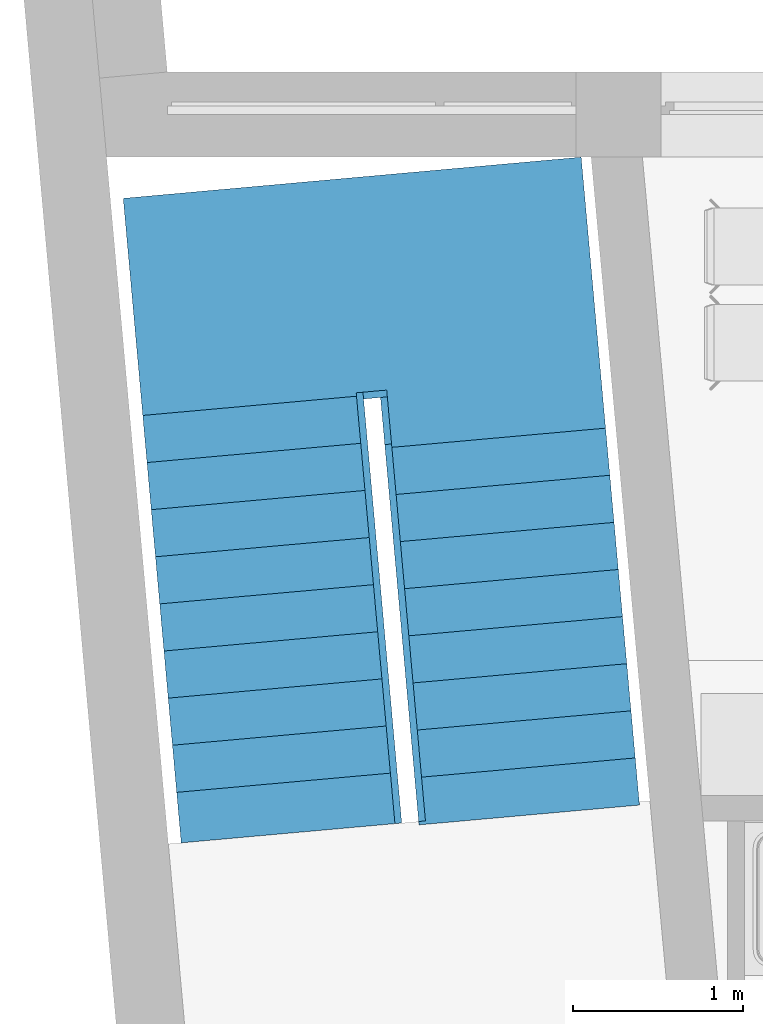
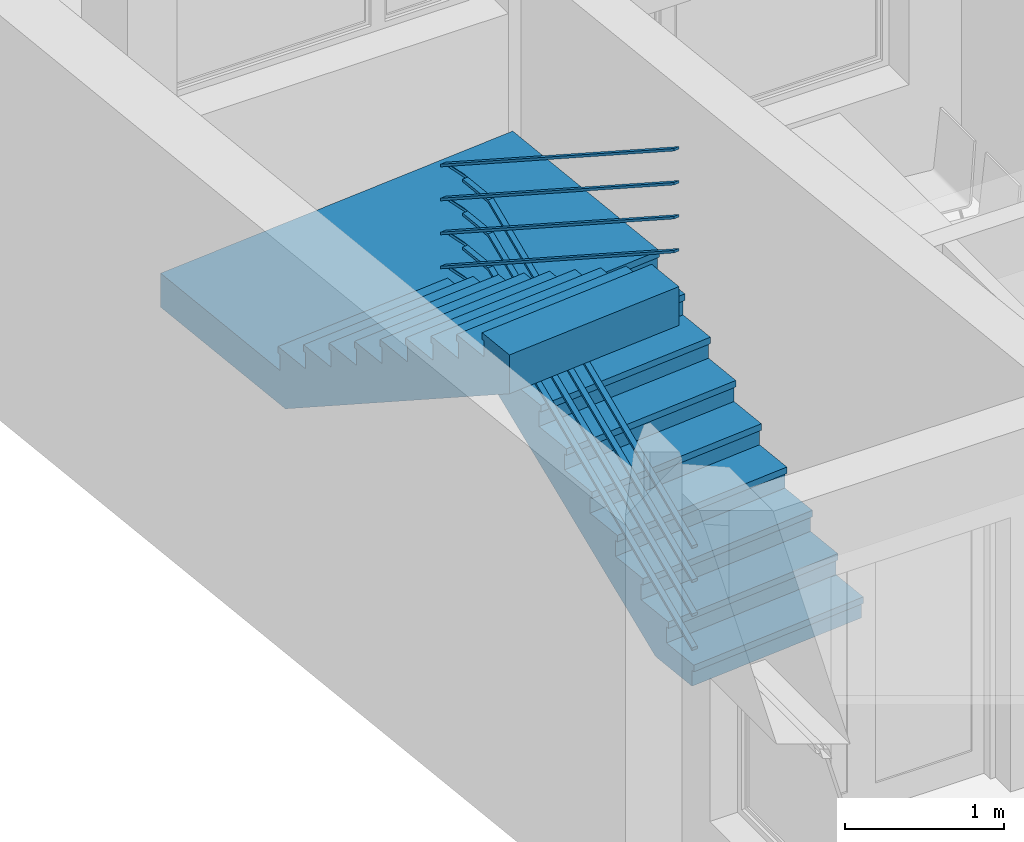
# One storey, part 40 of 172: 1 stair.
"""IFC2X3 building model written with IfcOpenShell, lengths in millimetres."""

from ifc_helpers import new_model, entity, si_unit, converted_unit, money_unit, direction, frame, origin_with_axes, place, context, subcontext, project, spatial, faceted_brep, material, element, save


model = new_model("IFC2X3")

# Units and contexts
model_context = context("Model", 3, precision=1e-05, world=origin_with_axes(), true_north=direction((0.0, 1.0)))
body_context = subcontext(model_context, "Body", "Model", "MODEL_VIEW")
ifc_project = project(units=[si_unit("LENGTHUNIT", "METRE", prefix="MILLI"), si_unit("AREAUNIT", "SQUARE_METRE"), si_unit("VOLUMEUNIT", "CUBIC_METRE"), converted_unit("PLANEANGLEUNIT", "DEGREE", entity("IfcPlaneAngleMeasure", 0.0174532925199), si_unit("PLANEANGLEUNIT", "RADIAN"), dimensions=[0, 0, 0, 0, 0, 0, 0]), si_unit("SOLIDANGLEUNIT", "STERADIAN"), money_unit("USD"), converted_unit("TIMEUNIT", "Year", entity("IfcTimeMeasure", 31556926.0), si_unit("TIMEUNIT", "SECOND"), dimensions=[0, 0, 0, 0, 0, 0, 0]), si_unit("MASSUNIT", "GRAM"), si_unit("THERMODYNAMICTEMPERATUREUNIT", "DEGREE_CELSIUS"), si_unit("LUMINOUSINTENSITYUNIT", "LUMEN")], contexts=[model_context])

# Site, building, storey
site_placement = place(None, origin_with_axes())
site = spatial("IfcSite", under=ifc_project, at=site_placement, Name="Site", CompositionType="ELEMENT")
building_placement = place(site_placement, origin_with_axes())
building = spatial("IfcBuilding", under=site, at=building_placement, Name="Building", CompositionType="ELEMENT")
storey_placement = place(building_placement, frame((0.0, 0.0, 3200.0), z_axis=(0.0, 0.0, 1.0), x_axis=(1.0, 0.0, 0.0)))
storey = spatial("IfcBuildingStorey", under=building, at=storey_placement, Name="3KORRUS", CompositionType="ELEMENT", Elevation=3200.0)

# Stair
ifc_material = material(Name="50 %")
stair_placement = place(storey_placement, frame((-51198.3443132, -8924.32051157, 0.0), z_axis=(0.0, 0.0, 1.0), x_axis=(-0.0895981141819, 0.995978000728, 0.0)))
element("IfcStair", 1, at=stair_placement, inside=storey, material=ifc_material, Name="TR1", ObjectType="TR1", ShapeType="TWO_STRAIGHT_RUN_STAIR", context=body_context, shape_type="Brep", body=[
    faceted_brep([(398.528, 0.0, 0.0), (398.528, 1300.0, 0.0), (2559.818, 1300.0, 1290.0), (2559.818, 0.0, 1290.0), (30.0, 0.0, 0.0), (30.0, 1300.0, 0.0), (30.0, 1300.0, 122.222), (307.778, 1300.0, 122.222), (307.778, 1300.0, 294.444), (585.556, 1300.0, 294.444), (585.556, 1300.0, 466.667), (863.333, 1300.0, 466.667), (863.333, 1300.0, 638.889), (1141.111, 1300.0, 638.889), (1141.111, 1300.0, 811.111), (1418.889, 1300.0, 811.111), (1418.889, 1300.0, 983.333), (1696.667, 1300.0, 983.333), (1696.667, 1300.0, 1155.556), (1974.444, 1300.0, 1155.556), (1974.444, 1300.0, 1327.778), (2252.222, 1300.0, 1327.778), (2252.222, 1300.0, 1500.0), (2530.0, 1300.0, 1500.0), (3800.0, 1300.0, 1500.0), (3800.0, 1300.0, 1290.0), (3800.0, 0.0, 1290.0), (3800.0, 0.0, 1500.0), (2530.0, 0.0, 1500.0), (2252.222, 0.0, 1500.0), (2252.222, 0.0, 1327.778), (1974.444, 0.0, 1327.778), (1974.444, 0.0, 1155.556), (1696.667, 0.0, 1155.556), (1696.667, 0.0, 983.333), (1418.889, 0.0, 983.333), (1418.889, 0.0, 811.111), (1141.111, 0.0, 811.111), (1141.111, 0.0, 638.889), (863.333, 0.0, 638.889), (863.333, 0.0, 466.667), (585.556, 0.0, 466.667), (585.556, 0.0, 294.444), (307.778, 0.0, 294.444), (307.778, 0.0, 122.222), (30.0, 0.0, 122.222)], [[[0, 1, 2, 3]], [[4, 5, 1, 0]], [[1, 5, 6, 7, 8, 9, 10, 11, 12, 13, 14, 15, 16, 17, 18, 19, 20, 21, 22, 23, 24, 25, 2]], [[3, 2, 25, 26]], [[0, 3, 26, 27, 28, 29, 30, 31, 32, 33, 34, 35, 36, 37, 38, 39, 40, 41, 42, 43, 44, 45, 4]], [[45, 6, 5, 4]], [[44, 7, 6, 45]], [[43, 8, 7, 44]], [[42, 9, 8, 43]], [[41, 10, 9, 42]], [[40, 11, 10, 41]], [[39, 12, 11, 40]], [[38, 13, 12, 39]], [[37, 14, 13, 38]], [[36, 15, 14, 37]], [[35, 16, 15, 36]], [[34, 17, 16, 35]], [[33, 18, 17, 34]], [[32, 19, 18, 33]], [[31, 20, 19, 32]], [[30, 21, 20, 31]], [[29, 22, 21, 30]], [[28, 23, 22, 29]], [[27, 24, 23, 28]], [[26, 25, 24, 27]]]),
    faceted_brep([(2500.0, 1300.0, 1500.0), (2500.0, 1400.0, 1500.0), (2500.0, 1400.0, 1290.0), (2500.0, 1300.0, 1290.0), (3800.0, 1300.0, 1500.0), (3800.0, 1400.0, 1500.0), (3800.0, 1400.0, 1290.0), (2559.818, 1400.0, 1290.0), (2559.818, 1300.0, 1290.0), (3800.0, 1300.0, 1290.0)], [[[0, 1, 2, 3]], [[4, 5, 1, 0]], [[1, 5, 6, 7, 2]], [[3, 2, 7, 8]], [[0, 3, 8, 9, 4]], [[9, 6, 5, 4]], [[8, 7, 6, 9]]]),
    faceted_brep([(2500.0, 1400.0, 1500.0), (2500.0, 2700.0, 1500.0), (2500.0, 2700.0, 1290.0), (2500.0, 1400.0, 1290.0), (3800.0, 1400.0, 1500.0), (3800.0, 2700.0, 1500.0), (3800.0, 2700.0, 1290.0), (3800.0, 1400.0, 1290.0)], [[[0, 1, 2, 3]], [[4, 5, 1, 0]], [[1, 5, 6, 2]], [[3, 2, 6, 7]], [[0, 3, 7, 4]], [[7, 6, 5, 4]]]),
    faceted_brep([(2500.0, 1400.0, 1290.0), (2440.182, 1400.0, 1290.0), (2440.182, 2700.0, 1290.0), (2500.0, 2700.0, 1290.0), (2500.0, 1400.0, 1500.0), (2470.0, 1400.0, 1500.0), (2470.0, 1400.0, 1672.222), (2192.222, 1400.0, 1672.222), (2192.222, 1400.0, 1844.444), (1914.444, 1400.0, 1844.444), (1914.444, 1400.0, 2016.667), (1636.667, 1400.0, 2016.667), (1636.667, 1400.0, 2188.889), (1358.889, 1400.0, 2188.889), (1358.889, 1400.0, 2361.111), (1081.111, 1400.0, 2361.111), (1081.111, 1400.0, 2533.333), (803.333, 1400.0, 2533.333), (803.333, 1400.0, 2705.556), (525.556, 1400.0, 2705.556), (525.556, 1400.0, 2877.778), (247.778, 1400.0, 2877.778), (247.778, 1400.0, 3050.0), (0.0, 1400.0, 3050.0), (0.0, 1400.0, 2802.913), (0.0, 2700.0, 2802.913), (0.0, 2700.0, 3050.0), (247.778, 2700.0, 3050.0), (247.778, 2700.0, 2877.778), (525.556, 2700.0, 2877.778), (525.556, 2700.0, 2705.556), (803.333, 2700.0, 2705.556), (803.333, 2700.0, 2533.333), (1081.111, 2700.0, 2533.333), (1081.111, 2700.0, 2361.111), (1358.889, 2700.0, 2361.111), (1358.889, 2700.0, 2188.889), (1636.667, 2700.0, 2188.889), (1636.667, 2700.0, 2016.667), (1914.444, 2700.0, 2016.667), (1914.444, 2700.0, 1844.444), (2192.222, 2700.0, 1844.444), (2192.222, 2700.0, 1672.222), (2470.0, 2700.0, 1672.222), (2470.0, 2700.0, 1500.0), (2500.0, 2700.0, 1500.0)], [[[0, 1, 2, 3]], [[0, 4, 5, 6, 7, 8, 9, 10, 11, 12, 13, 14, 15, 16, 17, 18, 19, 20, 21, 22, 23, 24, 1]], [[1, 24, 25, 2]], [[3, 2, 25, 26, 27, 28, 29, 30, 31, 32, 33, 34, 35, 36, 37, 38, 39, 40, 41, 42, 43, 44, 45]], [[4, 0, 3, 45]], [[5, 4, 45, 44]], [[6, 5, 44, 43]], [[7, 6, 43, 42]], [[8, 7, 42, 41]], [[9, 8, 41, 40]], [[10, 9, 40, 39]], [[11, 10, 39, 38]], [[12, 11, 38, 37]], [[13, 12, 37, 36]], [[14, 13, 36, 35]], [[15, 14, 35, 34]], [[16, 15, 34, 33]], [[17, 16, 33, 32]], [[18, 17, 32, 31]], [[19, 18, 31, 30]], [[20, 19, 30, 29]], [[21, 20, 29, 28]], [[22, 21, 28, 27]], [[23, 22, 27, 26]], [[24, 23, 26, 25]]]),
    faceted_brep([(0.0, 0.0, 0.0), (0.0, 1300.0, 0.0), (30.0, 1300.0, 0.0), (30.0, 0.0, 0.0), (0.0, 0.0, 122.222), (0.0, 1300.0, 122.222), (30.0, 1300.0, 122.222), (30.0, 0.0, 122.222)], [[[0, 1, 2, 3]], [[4, 5, 1, 0]], [[1, 5, 6, 2]], [[3, 2, 6, 7]], [[0, 3, 7, 4]], [[7, 6, 5, 4]]]),
    faceted_brep([(277.778, 0.0, 172.222), (277.778, 1300.0, 172.222), (307.778, 1300.0, 172.222), (307.778, 0.0, 172.222), (277.778, 0.0, 294.444), (277.778, 1300.0, 294.444), (307.778, 1300.0, 294.444), (307.778, 0.0, 294.444)], [[[0, 1, 2, 3]], [[4, 5, 1, 0]], [[1, 5, 6, 2]], [[3, 2, 6, 7]], [[0, 3, 7, 4]], [[7, 6, 5, 4]]]),
    faceted_brep([(555.556, 0.0, 344.444), (555.556, 1300.0, 344.444), (585.556, 1300.0, 344.444), (585.556, 0.0, 344.444), (555.556, 0.0, 466.667), (555.556, 1300.0, 466.667), (585.556, 1300.0, 466.667), (585.556, 0.0, 466.667)], [[[0, 1, 2, 3]], [[4, 5, 1, 0]], [[1, 5, 6, 2]], [[3, 2, 6, 7]], [[0, 3, 7, 4]], [[7, 6, 5, 4]]]),
    faceted_brep([(833.333, 0.0, 516.667), (833.333, 1300.0, 516.667), (863.333, 1300.0, 516.667), (863.333, 0.0, 516.667), (833.333, 0.0, 638.889), (833.333, 1300.0, 638.889), (863.333, 1300.0, 638.889), (863.333, 0.0, 638.889)], [[[0, 1, 2, 3]], [[4, 5, 1, 0]], [[1, 5, 6, 2]], [[3, 2, 6, 7]], [[0, 3, 7, 4]], [[7, 6, 5, 4]]]),
    faceted_brep([(1111.111, 0.0, 688.889), (1111.111, 1300.0, 688.889), (1141.111, 1300.0, 688.889), (1141.111, 0.0, 688.889), (1111.111, 0.0, 811.111), (1111.111, 1300.0, 811.111), (1141.111, 1300.0, 811.111), (1141.111, 0.0, 811.111)], [[[0, 1, 2, 3]], [[4, 5, 1, 0]], [[1, 5, 6, 2]], [[3, 2, 6, 7]], [[0, 3, 7, 4]], [[7, 6, 5, 4]]]),
    faceted_brep([(1388.889, 0.0, 861.111), (1388.889, 1300.0, 861.111), (1418.889, 1300.0, 861.111), (1418.889, 0.0, 861.111), (1388.889, 0.0, 983.333), (1388.889, 1300.0, 983.333), (1418.889, 1300.0, 983.333), (1418.889, 0.0, 983.333)], [[[0, 1, 2, 3]], [[4, 5, 1, 0]], [[1, 5, 6, 2]], [[3, 2, 6, 7]], [[0, 3, 7, 4]], [[7, 6, 5, 4]]]),
    faceted_brep([(1666.667, 0.0, 1033.333), (1666.667, 1300.0, 1033.333), (1696.667, 1300.0, 1033.333), (1696.667, 0.0, 1033.333), (1666.667, 0.0, 1155.556), (1666.667, 1300.0, 1155.556), (1696.667, 1300.0, 1155.556), (1696.667, 0.0, 1155.556)], [[[0, 1, 2, 3]], [[4, 5, 1, 0]], [[1, 5, 6, 2]], [[3, 2, 6, 7]], [[0, 3, 7, 4]], [[7, 6, 5, 4]]]),
    faceted_brep([(1944.444, 0.0, 1205.556), (1944.444, 1300.0, 1205.556), (1974.444, 1300.0, 1205.556), (1974.444, 0.0, 1205.556), (1944.444, 0.0, 1327.778), (1944.444, 1300.0, 1327.778), (1974.444, 1300.0, 1327.778), (1974.444, 0.0, 1327.778)], [[[0, 1, 2, 3]], [[4, 5, 1, 0]], [[1, 5, 6, 2]], [[3, 2, 6, 7]], [[0, 3, 7, 4]], [[7, 6, 5, 4]]]),
    faceted_brep([(2222.222, 0.0, 1377.778), (2222.222, 1300.0, 1377.778), (2252.222, 1300.0, 1377.778), (2252.222, 0.0, 1377.778), (2222.222, 0.0, 1500.0), (2222.222, 1300.0, 1500.0), (2252.222, 1300.0, 1500.0), (2252.222, 0.0, 1500.0)], [[[0, 1, 2, 3]], [[4, 5, 1, 0]], [[1, 5, 6, 2]], [[3, 2, 6, 7]], [[0, 3, 7, 4]], [[7, 6, 5, 4]]]),
    faceted_brep([(2500.0, 1400.0, 1550.0), (2470.0, 1400.0, 1550.0), (2470.0, 2700.0, 1550.0), (2500.0, 2700.0, 1550.0), (2500.0, 1400.0, 1672.222), (2470.0, 1400.0, 1672.222), (2470.0, 2700.0, 1672.222), (2500.0, 2700.0, 1672.222)], [[[0, 1, 2, 3]], [[0, 4, 5, 1]], [[1, 5, 6, 2]], [[3, 2, 6, 7]], [[4, 0, 3, 7]], [[5, 4, 7, 6]]]),
    faceted_brep([(2222.222, 1400.0, 1722.222), (2192.222, 1400.0, 1722.222), (2192.222, 2700.0, 1722.222), (2222.222, 2700.0, 1722.222), (2222.222, 1400.0, 1844.444), (2192.222, 1400.0, 1844.444), (2192.222, 2700.0, 1844.444), (2222.222, 2700.0, 1844.444)], [[[0, 1, 2, 3]], [[0, 4, 5, 1]], [[1, 5, 6, 2]], [[3, 2, 6, 7]], [[4, 0, 3, 7]], [[5, 4, 7, 6]]]),
    faceted_brep([(1944.444, 1400.0, 1894.444), (1914.444, 1400.0, 1894.444), (1914.444, 2700.0, 1894.444), (1944.444, 2700.0, 1894.444), (1944.444, 1400.0, 2016.667), (1914.444, 1400.0, 2016.667), (1914.444, 2700.0, 2016.667), (1944.444, 2700.0, 2016.667)], [[[0, 1, 2, 3]], [[0, 4, 5, 1]], [[1, 5, 6, 2]], [[3, 2, 6, 7]], [[4, 0, 3, 7]], [[5, 4, 7, 6]]]),
    faceted_brep([(1666.667, 1400.0, 2066.667), (1636.667, 1400.0, 2066.667), (1636.667, 2700.0, 2066.667), (1666.667, 2700.0, 2066.667), (1666.667, 1400.0, 2188.889), (1636.667, 1400.0, 2188.889), (1636.667, 2700.0, 2188.889), (1666.667, 2700.0, 2188.889)], [[[0, 1, 2, 3]], [[0, 4, 5, 1]], [[1, 5, 6, 2]], [[3, 2, 6, 7]], [[4, 0, 3, 7]], [[5, 4, 7, 6]]]),
    faceted_brep([(1388.889, 1400.0, 2238.889), (1358.889, 1400.0, 2238.889), (1358.889, 2700.0, 2238.889), (1388.889, 2700.0, 2238.889), (1388.889, 1400.0, 2361.111), (1358.889, 1400.0, 2361.111), (1358.889, 2700.0, 2361.111), (1388.889, 2700.0, 2361.111)], [[[0, 1, 2, 3]], [[0, 4, 5, 1]], [[1, 5, 6, 2]], [[3, 2, 6, 7]], [[4, 0, 3, 7]], [[5, 4, 7, 6]]]),
    faceted_brep([(1111.111, 1400.0, 2411.111), (1081.111, 1400.0, 2411.111), (1081.111, 2700.0, 2411.111), (1111.111, 2700.0, 2411.111), (1111.111, 1400.0, 2533.333), (1081.111, 1400.0, 2533.333), (1081.111, 2700.0, 2533.333), (1111.111, 2700.0, 2533.333)], [[[0, 1, 2, 3]], [[0, 4, 5, 1]], [[1, 5, 6, 2]], [[3, 2, 6, 7]], [[4, 0, 3, 7]], [[5, 4, 7, 6]]]),
    faceted_brep([(833.333, 1400.0, 2583.333), (803.333, 1400.0, 2583.333), (803.333, 2700.0, 2583.333), (833.333, 2700.0, 2583.333), (833.333, 1400.0, 2705.556), (803.333, 1400.0, 2705.556), (803.333, 2700.0, 2705.556), (833.333, 2700.0, 2705.556)], [[[0, 1, 2, 3]], [[0, 4, 5, 1]], [[1, 5, 6, 2]], [[3, 2, 6, 7]], [[4, 0, 3, 7]], [[5, 4, 7, 6]]]),
    faceted_brep([(555.556, 1400.0, 2755.556), (525.556, 1400.0, 2755.556), (525.556, 2700.0, 2755.556), (555.556, 2700.0, 2755.556), (555.556, 1400.0, 2877.778), (525.556, 1400.0, 2877.778), (525.556, 2700.0, 2877.778), (555.556, 2700.0, 2877.778)], [[[0, 1, 2, 3]], [[0, 4, 5, 1]], [[1, 5, 6, 2]], [[3, 2, 6, 7]], [[4, 0, 3, 7]], [[5, 4, 7, 6]]]),
    faceted_brep([(277.778, 1400.0, 2927.778), (247.778, 1400.0, 2927.778), (247.778, 2700.0, 2927.778), (277.778, 2700.0, 2927.778), (277.778, 1400.0, 3050.0), (247.778, 1400.0, 3050.0), (247.778, 2700.0, 3050.0), (277.778, 2700.0, 3050.0)], [[[0, 1, 2, 3]], [[0, 4, 5, 1]], [[1, 5, 6, 2]], [[3, 2, 6, 7]], [[4, 0, 3, 7]], [[5, 4, 7, 6]]]),
    faceted_brep([(-20.0, 0.0, 122.222), (-20.0, 1300.0, 122.222), (307.778, 1300.0, 122.222), (307.778, 0.0, 122.222), (-20.0, 0.0, 172.222), (-20.0, 1300.0, 172.222), (307.778, 1300.0, 172.222), (307.778, 0.0, 172.222)], [[[0, 1, 2, 3]], [[4, 5, 1, 0]], [[1, 5, 6, 2]], [[3, 2, 6, 7]], [[0, 3, 7, 4]], [[7, 6, 5, 4]]]),
    faceted_brep([(257.778, 0.0, 294.444), (257.778, 1300.0, 294.444), (585.556, 1300.0, 294.444), (585.556, 0.0, 294.444), (257.778, 0.0, 344.444), (257.778, 1300.0, 344.444), (585.556, 1300.0, 344.444), (585.556, 0.0, 344.444)], [[[0, 1, 2, 3]], [[4, 5, 1, 0]], [[1, 5, 6, 2]], [[3, 2, 6, 7]], [[0, 3, 7, 4]], [[7, 6, 5, 4]]]),
    faceted_brep([(535.556, 0.0, 466.667), (535.556, 1300.0, 466.667), (863.333, 1300.0, 466.667), (863.333, 0.0, 466.667), (535.556, 0.0, 516.667), (535.556, 1300.0, 516.667), (863.333, 1300.0, 516.667), (863.333, 0.0, 516.667)], [[[0, 1, 2, 3]], [[4, 5, 1, 0]], [[1, 5, 6, 2]], [[3, 2, 6, 7]], [[0, 3, 7, 4]], [[7, 6, 5, 4]]]),
    faceted_brep([(813.333, 0.0, 638.889), (813.333, 1300.0, 638.889), (1141.111, 1300.0, 638.889), (1141.111, 0.0, 638.889), (813.333, 0.0, 688.889), (813.333, 1300.0, 688.889), (1141.111, 1300.0, 688.889), (1141.111, 0.0, 688.889)], [[[0, 1, 2, 3]], [[4, 5, 1, 0]], [[1, 5, 6, 2]], [[3, 2, 6, 7]], [[0, 3, 7, 4]], [[7, 6, 5, 4]]]),
    faceted_brep([(1091.111, 0.0, 811.111), (1091.111, 1300.0, 811.111), (1418.889, 1300.0, 811.111), (1418.889, 0.0, 811.111), (1091.111, 0.0, 861.111), (1091.111, 1300.0, 861.111), (1418.889, 1300.0, 861.111), (1418.889, 0.0, 861.111)], [[[0, 1, 2, 3]], [[4, 5, 1, 0]], [[1, 5, 6, 2]], [[3, 2, 6, 7]], [[0, 3, 7, 4]], [[7, 6, 5, 4]]]),
    faceted_brep([(1368.889, 0.0, 983.333), (1368.889, 1300.0, 983.333), (1696.667, 1300.0, 983.333), (1696.667, 0.0, 983.333), (1368.889, 0.0, 1033.333), (1368.889, 1300.0, 1033.333), (1696.667, 1300.0, 1033.333), (1696.667, 0.0, 1033.333)], [[[0, 1, 2, 3]], [[4, 5, 1, 0]], [[1, 5, 6, 2]], [[3, 2, 6, 7]], [[0, 3, 7, 4]], [[7, 6, 5, 4]]]),
    faceted_brep([(1646.667, 0.0, 1155.556), (1646.667, 1300.0, 1155.556), (1974.444, 1300.0, 1155.556), (1974.444, 0.0, 1155.556), (1646.667, 0.0, 1205.556), (1646.667, 1300.0, 1205.556), (1974.444, 1300.0, 1205.556), (1974.444, 0.0, 1205.556)], [[[0, 1, 2, 3]], [[4, 5, 1, 0]], [[1, 5, 6, 2]], [[3, 2, 6, 7]], [[0, 3, 7, 4]], [[7, 6, 5, 4]]]),
    faceted_brep([(1924.444, 0.0, 1327.778), (1924.444, 1300.0, 1327.778), (2252.222, 1300.0, 1327.778), (2252.222, 0.0, 1327.778), (1924.444, 0.0, 1377.778), (1924.444, 1300.0, 1377.778), (2252.222, 1300.0, 1377.778), (2252.222, 0.0, 1377.778)], [[[0, 1, 2, 3]], [[4, 5, 1, 0]], [[1, 5, 6, 2]], [[3, 2, 6, 7]], [[0, 3, 7, 4]], [[7, 6, 5, 4]]]),
    faceted_brep([(2202.222, 0.0, 1500.0), (2202.222, 1300.0, 1500.0), (2500.0, 1300.0, 1500.0), (2500.0, 0.0, 1500.0), (2202.222, 0.0, 1550.0), (2202.222, 1300.0, 1550.0), (2500.0, 1300.0, 1550.0), (2500.0, 0.0, 1550.0)], [[[0, 1, 2, 3]], [[4, 5, 1, 0]], [[1, 5, 6, 2]], [[3, 2, 6, 7]], [[0, 3, 7, 4]], [[7, 6, 5, 4]]]),
    faceted_brep([(3800.0, 0.0, 1500.0), (3800.0, 1400.0, 1500.0), (3800.0, 1400.0, 1550.0), (3800.0, 0.0, 1550.0), (2500.0, 0.0, 1500.0), (2500.0, 1400.0, 1500.0), (2500.0, 1400.0, 1550.0), (2500.0, 0.0, 1550.0)], [[[0, 1, 2, 3]], [[4, 5, 1, 0]], [[1, 5, 6, 2]], [[3, 2, 6, 7]], [[0, 3, 7, 4]], [[7, 6, 5, 4]]]),
    faceted_brep([(3800.0, 1400.0, 1500.0), (3800.0, 2700.0, 1500.0), (3800.0, 2700.0, 1550.0), (3800.0, 1400.0, 1550.0), (2470.0, 1400.0, 1500.0), (2470.0, 2700.0, 1500.0), (2470.0, 2700.0, 1550.0), (2470.0, 1400.0, 1550.0)], [[[0, 1, 2, 3]], [[4, 5, 1, 0]], [[1, 5, 6, 2]], [[3, 2, 6, 7]], [[0, 3, 7, 4]], [[7, 6, 5, 4]]]),
    faceted_brep([(2520.0, 1400.0, 1672.222), (2192.222, 1400.0, 1672.222), (2192.222, 2700.0, 1672.222), (2520.0, 2700.0, 1672.222), (2520.0, 1400.0, 1722.222), (2192.222, 1400.0, 1722.222), (2192.222, 2700.0, 1722.222), (2520.0, 2700.0, 1722.222)], [[[0, 1, 2, 3]], [[0, 4, 5, 1]], [[1, 5, 6, 2]], [[3, 2, 6, 7]], [[4, 0, 3, 7]], [[5, 4, 7, 6]]]),
    faceted_brep([(2242.222, 1400.0, 1844.444), (1914.444, 1400.0, 1844.444), (1914.444, 2700.0, 1844.444), (2242.222, 2700.0, 1844.444), (2242.222, 1400.0, 1894.444), (1914.444, 1400.0, 1894.444), (1914.444, 2700.0, 1894.444), (2242.222, 2700.0, 1894.444)], [[[0, 1, 2, 3]], [[0, 4, 5, 1]], [[1, 5, 6, 2]], [[3, 2, 6, 7]], [[4, 0, 3, 7]], [[5, 4, 7, 6]]]),
    faceted_brep([(1964.444, 1400.0, 2016.667), (1636.667, 1400.0, 2016.667), (1636.667, 2700.0, 2016.667), (1964.444, 2700.0, 2016.667), (1964.444, 1400.0, 2066.667), (1636.667, 1400.0, 2066.667), (1636.667, 2700.0, 2066.667), (1964.444, 2700.0, 2066.667)], [[[0, 1, 2, 3]], [[0, 4, 5, 1]], [[1, 5, 6, 2]], [[3, 2, 6, 7]], [[4, 0, 3, 7]], [[5, 4, 7, 6]]]),
    faceted_brep([(1686.667, 1400.0, 2188.889), (1358.889, 1400.0, 2188.889), (1358.889, 2700.0, 2188.889), (1686.667, 2700.0, 2188.889), (1686.667, 1400.0, 2238.889), (1358.889, 1400.0, 2238.889), (1358.889, 2700.0, 2238.889), (1686.667, 2700.0, 2238.889)], [[[0, 1, 2, 3]], [[0, 4, 5, 1]], [[1, 5, 6, 2]], [[3, 2, 6, 7]], [[4, 0, 3, 7]], [[5, 4, 7, 6]]]),
    faceted_brep([(1408.889, 1400.0, 2361.111), (1081.111, 1400.0, 2361.111), (1081.111, 2700.0, 2361.111), (1408.889, 2700.0, 2361.111), (1408.889, 1400.0, 2411.111), (1081.111, 1400.0, 2411.111), (1081.111, 2700.0, 2411.111), (1408.889, 2700.0, 2411.111)], [[[0, 1, 2, 3]], [[0, 4, 5, 1]], [[1, 5, 6, 2]], [[3, 2, 6, 7]], [[4, 0, 3, 7]], [[5, 4, 7, 6]]]),
    faceted_brep([(1131.111, 1400.0, 2533.333), (803.333, 1400.0, 2533.333), (803.333, 2700.0, 2533.333), (1131.111, 2700.0, 2533.333), (1131.111, 1400.0, 2583.333), (803.333, 1400.0, 2583.333), (803.333, 2700.0, 2583.333), (1131.111, 2700.0, 2583.333)], [[[0, 1, 2, 3]], [[0, 4, 5, 1]], [[1, 5, 6, 2]], [[3, 2, 6, 7]], [[4, 0, 3, 7]], [[5, 4, 7, 6]]]),
    faceted_brep([(853.333, 1400.0, 2705.556), (525.556, 1400.0, 2705.556), (525.556, 2700.0, 2705.556), (853.333, 2700.0, 2705.556), (853.333, 1400.0, 2755.556), (525.556, 1400.0, 2755.556), (525.556, 2700.0, 2755.556), (853.333, 2700.0, 2755.556)], [[[0, 1, 2, 3]], [[0, 4, 5, 1]], [[1, 5, 6, 2]], [[3, 2, 6, 7]], [[4, 0, 3, 7]], [[5, 4, 7, 6]]]),
    faceted_brep([(575.556, 1400.0, 2877.778), (247.778, 1400.0, 2877.778), (247.778, 2700.0, 2877.778), (575.556, 2700.0, 2877.778), (575.556, 1400.0, 2927.778), (247.778, 1400.0, 2927.778), (247.778, 2700.0, 2927.778), (575.556, 2700.0, 2927.778)], [[[0, 1, 2, 3]], [[0, 4, 5, 1]], [[1, 5, 6, 2]], [[3, 2, 6, 7]], [[4, 0, 3, 7]], [[5, 4, 7, 6]]]),
    faceted_brep([(297.778, 1400.0, 3050.0), (0.0, 1400.0, 3050.0), (0.0, 2700.0, 3050.0), (297.778, 2700.0, 3050.0), (297.778, 1400.0, 3100.0), (0.0, 1400.0, 3100.0), (0.0, 2700.0, 3100.0), (297.778, 2700.0, 3100.0)], [[[0, 1, 2, 3]], [[0, 4, 5, 1]], [[1, 5, 6, 2]], [[3, 2, 6, 7]], [[4, 0, 3, 7]], [[5, 4, 7, 6]]]),
    faceted_brep([(0.0, 1260.0, 272.222), (0.0, 1300.0, 272.222), (2222.222, 1300.0, 1650.0), (2222.222, 1260.0, 1650.0), (0.0, 1260.0, 292.222), (0.0, 1300.0, 292.222), (2222.222, 1300.0, 1670.0), (2222.222, 1260.0, 1670.0)], [[[0, 1, 2, 3]], [[4, 5, 1, 0]], [[1, 5, 6, 2]], [[3, 2, 6, 7]], [[0, 3, 7, 4]], [[7, 6, 5, 4]]]),
    faceted_brep([(0.0, 1260.0, 532.222), (0.0, 1300.0, 532.222), (2222.222, 1300.0, 1910.0), (2222.222, 1260.0, 1910.0), (0.0, 1260.0, 552.222), (0.0, 1300.0, 552.222), (2222.222, 1300.0, 1930.0), (2222.222, 1260.0, 1930.0)], [[[0, 1, 2, 3]], [[4, 5, 1, 0]], [[1, 5, 6, 2]], [[3, 2, 6, 7]], [[0, 3, 7, 4]], [[7, 6, 5, 4]]]),
    faceted_brep([(0.0, 1260.0, 792.222), (0.0, 1300.0, 792.222), (2222.222, 1300.0, 2170.0), (2222.222, 1260.0, 2170.0), (0.0, 1260.0, 812.222), (0.0, 1300.0, 812.222), (2222.222, 1300.0, 2190.0), (2222.222, 1260.0, 2190.0)], [[[0, 1, 2, 3]], [[4, 5, 1, 0]], [[1, 5, 6, 2]], [[3, 2, 6, 7]], [[0, 3, 7, 4]], [[7, 6, 5, 4]]]),
    faceted_brep([(0.0, 1260.0, 1052.222), (0.0, 1300.0, 1052.222), (2222.222, 1300.0, 2430.0), (2222.222, 1260.0, 2430.0), (0.0, 1260.0, 1072.222), (0.0, 1300.0, 1072.222), (2222.222, 1300.0, 2450.0), (2222.222, 1260.0, 2450.0)], [[[0, 1, 2, 3]], [[4, 5, 1, 0]], [[1, 5, 6, 2]], [[3, 2, 6, 7]], [[0, 3, 7, 4]], [[7, 6, 5, 4]]]),
    faceted_brep([(2222.222, 1260.0, 1650.0), (2222.222, 1260.0, 1670.0), (2222.222, 1300.0, 1670.0), (2222.222, 1300.0, 1650.0), (2500.0, 1260.0, 1650.0), (2500.0, 1260.0, 1670.0), (2500.0, 1300.0, 1670.0), (2500.0, 1300.0, 1650.0)], [[[0, 1, 2, 3]], [[4, 5, 1, 0]], [[1, 5, 6, 2]], [[3, 2, 6, 7]], [[0, 3, 7, 4]], [[7, 6, 5, 4]]]),
    faceted_brep([(2222.222, 1260.0, 1910.0), (2222.222, 1260.0, 1930.0), (2222.222, 1300.0, 1930.0), (2222.222, 1300.0, 1910.0), (2500.0, 1260.0, 1910.0), (2500.0, 1260.0, 1930.0), (2500.0, 1300.0, 1930.0), (2500.0, 1300.0, 1910.0)], [[[0, 1, 2, 3]], [[4, 5, 1, 0]], [[1, 5, 6, 2]], [[3, 2, 6, 7]], [[0, 3, 7, 4]], [[7, 6, 5, 4]]]),
    faceted_brep([(2222.222, 1260.0, 2170.0), (2222.222, 1260.0, 2190.0), (2222.222, 1300.0, 2190.0), (2222.222, 1300.0, 2170.0), (2500.0, 1260.0, 2170.0), (2500.0, 1260.0, 2190.0), (2500.0, 1300.0, 2190.0), (2500.0, 1300.0, 2170.0)], [[[0, 1, 2, 3]], [[4, 5, 1, 0]], [[1, 5, 6, 2]], [[3, 2, 6, 7]], [[0, 3, 7, 4]], [[7, 6, 5, 4]]]),
    faceted_brep([(2222.222, 1260.0, 2430.0), (2222.222, 1260.0, 2450.0), (2222.222, 1300.0, 2450.0), (2222.222, 1300.0, 2430.0), (2500.0, 1260.0, 2430.0), (2500.0, 1260.0, 2450.0), (2500.0, 1300.0, 2450.0), (2500.0, 1300.0, 2430.0)], [[[0, 1, 2, 3]], [[4, 5, 1, 0]], [[1, 5, 6, 2]], [[3, 2, 6, 7]], [[0, 3, 7, 4]], [[7, 6, 5, 4]]]),
    faceted_brep([(2540.0, 1260.0, 1650.0), (2500.0, 1260.0, 1650.0), (2500.0, 1400.0, 1797.422), (2540.0, 1400.0, 1797.422), (2540.0, 1260.0, 1670.0), (2500.0, 1260.0, 1670.0), (2500.0, 1400.0, 1817.422), (2540.0, 1400.0, 1817.422)], [[[0, 1, 2, 3]], [[4, 5, 1, 0]], [[1, 5, 6, 2]], [[3, 2, 6, 7]], [[0, 3, 7, 4]], [[7, 6, 5, 4]]]),
    faceted_brep([(2540.0, 1260.0, 1910.0), (2500.0, 1260.0, 1910.0), (2500.0, 1400.0, 2057.422), (2540.0, 1400.0, 2057.422), (2540.0, 1260.0, 1930.0), (2500.0, 1260.0, 1930.0), (2500.0, 1400.0, 2077.422), (2540.0, 1400.0, 2077.422)], [[[0, 1, 2, 3]], [[4, 5, 1, 0]], [[1, 5, 6, 2]], [[3, 2, 6, 7]], [[0, 3, 7, 4]], [[7, 6, 5, 4]]]),
    faceted_brep([(2540.0, 1260.0, 2170.0), (2500.0, 1260.0, 2170.0), (2500.0, 1400.0, 2317.422), (2540.0, 1400.0, 2317.422), (2540.0, 1260.0, 2190.0), (2500.0, 1260.0, 2190.0), (2500.0, 1400.0, 2337.422), (2540.0, 1400.0, 2337.422)], [[[0, 1, 2, 3]], [[4, 5, 1, 0]], [[1, 5, 6, 2]], [[3, 2, 6, 7]], [[0, 3, 7, 4]], [[7, 6, 5, 4]]]),
    faceted_brep([(2540.0, 1260.0, 2430.0), (2500.0, 1260.0, 2430.0), (2500.0, 1400.0, 2577.422), (2540.0, 1400.0, 2577.422), (2540.0, 1260.0, 2450.0), (2500.0, 1260.0, 2450.0), (2500.0, 1400.0, 2597.422), (2540.0, 1400.0, 2597.422)], [[[0, 1, 2, 3]], [[4, 5, 1, 0]], [[1, 5, 6, 2]], [[3, 2, 6, 7]], [[0, 3, 7, 4]], [[7, 6, 5, 4]]]),
    faceted_brep([(2540.0, 1440.0, 1797.422), (2540.0, 1400.0, 1797.422), (0.0, 1400.0, 3372.222), (0.0, 1440.0, 3372.222), (2540.0, 1440.0, 1817.422), (2540.0, 1400.0, 1817.422), (0.0, 1400.0, 3392.222), (0.0, 1440.0, 3392.222)], [[[0, 1, 2, 3]], [[4, 5, 1, 0]], [[1, 5, 6, 2]], [[3, 2, 6, 7]], [[0, 3, 7, 4]], [[7, 6, 5, 4]]]),
    faceted_brep([(2540.0, 1440.0, 2057.422), (2540.0, 1400.0, 2057.422), (0.0, 1400.0, 3632.222), (0.0, 1440.0, 3632.222), (2540.0, 1440.0, 2077.422), (2540.0, 1400.0, 2077.422), (0.0, 1400.0, 3652.222), (0.0, 1440.0, 3652.222)], [[[0, 1, 2, 3]], [[4, 5, 1, 0]], [[1, 5, 6, 2]], [[3, 2, 6, 7]], [[0, 3, 7, 4]], [[7, 6, 5, 4]]]),
    faceted_brep([(2540.0, 1440.0, 2317.422), (2540.0, 1400.0, 2317.422), (0.0, 1400.0, 3892.222), (0.0, 1440.0, 3892.222), (2540.0, 1440.0, 2337.422), (2540.0, 1400.0, 2337.422), (0.0, 1400.0, 3912.222), (0.0, 1440.0, 3912.222)], [[[0, 1, 2, 3]], [[4, 5, 1, 0]], [[1, 5, 6, 2]], [[3, 2, 6, 7]], [[0, 3, 7, 4]], [[7, 6, 5, 4]]]),
    faceted_brep([(2540.0, 1440.0, 2577.422), (2540.0, 1400.0, 2577.422), (0.0, 1400.0, 4152.222), (0.0, 1440.0, 4152.222), (2540.0, 1440.0, 2597.422), (2540.0, 1400.0, 2597.422), (0.0, 1400.0, 4172.222), (0.0, 1440.0, 4172.222)], [[[0, 1, 2, 3]], [[4, 5, 1, 0]], [[1, 5, 6, 2]], [[3, 2, 6, 7]], [[0, 3, 7, 4]], [[7, 6, 5, 4]]]),
])

save(model, "model.ifc")
